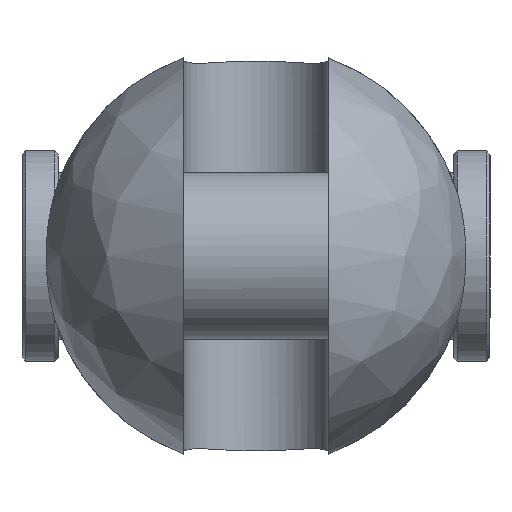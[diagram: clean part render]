
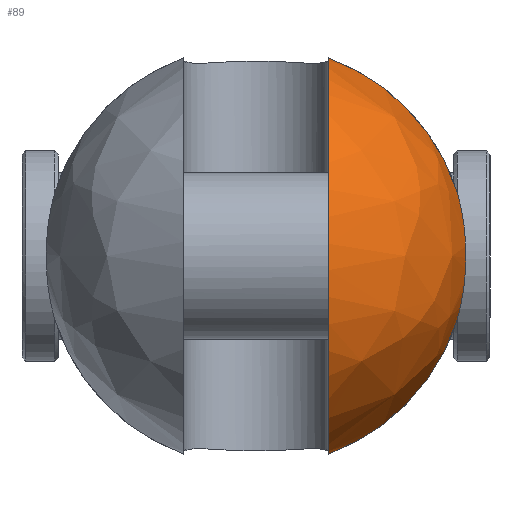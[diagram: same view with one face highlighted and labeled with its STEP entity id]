
A CAD part, left-side view. The second image highlights one B-rep face of the part: STEP entity #89.
In plain terms, the highlighted free-form (B-spline) face has degree [2, 2] with [9, 5] control points.
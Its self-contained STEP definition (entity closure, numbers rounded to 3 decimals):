
#89=ADVANCED_FACE('',(#164),#1306,.T.);
#164=FACE_OUTER_BOUND('',#249,.T.);
#249=EDGE_LOOP('',(#583,#584,#585,#586));
#583=ORIENTED_EDGE('',*,*,#811,.T.);
#584=ORIENTED_EDGE('',*,*,#833,.F.);
#585=ORIENTED_EDGE('',*,*,#843,.T.);
#586=ORIENTED_EDGE('',*,*,#827,.F.);
#811=EDGE_CURVE('',#1192,#1191,#1045,.T.);
#827=EDGE_CURVE('',#1192,#1204,#1055,.T.);
#833=EDGE_CURVE('',#1211,#1191,#1056,.T.);
#843=EDGE_CURVE('',#1211,#1204,#959,.T.);
#959=B_SPLINE_CURVE_WITH_KNOTS('',3,(#3064,#3065,#3066,#3067,#3068,#3069,
#3070,#3071,#3072,#3073,#3074,#3075,#3076,#3077),.UNSPECIFIED.,.F.,.F.,
(4,2,2,2,2,2,4),(0.,2.032,5.991,9.951,
13.91,17.869,19.901),.UNSPECIFIED.);
#1045=(
BOUNDED_CURVE()
B_SPLINE_CURVE(2,(#2912,#2913,#2914,#2915,#2916),.UNSPECIFIED.,.F.,.F.)
B_SPLINE_CURVE_WITH_KNOTS((3,2,3),(-85.518,-42.759,
0.),.UNSPECIFIED.)
CURVE()
GEOMETRIC_REPRESENTATION_ITEM()
RATIONAL_B_SPLINE_CURVE((1.,0.707,1.,0.707,1.))
REPRESENTATION_ITEM('')
);
#1055=(
BOUNDED_CURVE()
B_SPLINE_CURVE(2,(#2990,#2991,#2992),.UNSPECIFIED.,.F.,.F.)
B_SPLINE_CURVE_WITH_KNOTS((3,3),(0.,26.018),.UNSPECIFIED.)
CURVE()
GEOMETRIC_REPRESENTATION_ITEM()
RATIONAL_B_SPLINE_CURVE((1.,0.901,1.))
REPRESENTATION_ITEM('')
);
#1056=(
BOUNDED_CURVE()
B_SPLINE_CURVE(2,(#3019,#3020,#3021),.UNSPECIFIED.,.F.,.F.)
B_SPLINE_CURVE_WITH_KNOTS((3,3),(0.,26.018),.UNSPECIFIED.)
CURVE()
GEOMETRIC_REPRESENTATION_ITEM()
RATIONAL_B_SPLINE_CURVE((1.,0.901,1.))
REPRESENTATION_ITEM('')
);
#1191=VERTEX_POINT('',#2837);
#1192=VERTEX_POINT('',#2838);
#1204=VERTEX_POINT('',#2850);
#1211=VERTEX_POINT('',#2857);
#1306=(
BOUNDED_SURFACE()
B_SPLINE_SURFACE(2,2,((#2445,#2446,#2447,#2448,#2449),(#2450,#2451,#2452,
#2453,#2454),(#2455,#2456,#2457,#2458,#2459),(#2460,#2461,#2462,#2463,#2464),
(#2465,#2466,#2467,#2468,#2469),(#2470,#2471,#2472,#2473,#2474),(#2475,
#2476,#2477,#2478,#2479),(#2480,#2481,#2482,#2483,#2484),(#2485,#2486,#2487,
#2488,#2489)),.UNSPECIFIED.,.T.,.F.,.F.)
B_SPLINE_SURFACE_WITH_KNOTS((3,2,2,2,3),(3,2,3),(0.,45.553,91.106,
136.659,182.212),(0.,45.553,91.106),
 .UNSPECIFIED.)
GEOMETRIC_REPRESENTATION_ITEM()
RATIONAL_B_SPLINE_SURFACE(((1.,0.707,1.,0.707,1.),
(0.707,0.5,0.707,0.5,0.707),(1.,0.707,
1.,0.707,1.),(0.707,0.5,0.707,0.5,0.707),
(1.,0.707,1.,0.707,1.),(0.707,0.5,0.707,
0.5,0.707),(1.,0.707,1.,0.707,1.),(0.707,
0.5,0.707,0.5,0.707),(1.,0.707,1.,0.707,
1.)))
REPRESENTATION_ITEM('')
SURFACE()
);
#2445=CARTESIAN_POINT('',(-41.5,0.,0.));
#2446=CARTESIAN_POINT('',(-41.5,29.,0.));
#2447=CARTESIAN_POINT('',(-12.5,29.,0.));
#2448=CARTESIAN_POINT('',(16.5,29.,0.));
#2449=CARTESIAN_POINT('',(16.5,0.,0.));
#2450=CARTESIAN_POINT('',(-41.5,0.,0.));
#2451=CARTESIAN_POINT('',(-41.5,29.,29.));
#2452=CARTESIAN_POINT('',(-12.5,29.,29.));
#2453=CARTESIAN_POINT('',(16.5,29.,29.));
#2454=CARTESIAN_POINT('',(16.5,0.,0.));
#2455=CARTESIAN_POINT('',(-41.5,0.,0.));
#2456=CARTESIAN_POINT('',(-41.5,0.,29.));
#2457=CARTESIAN_POINT('',(-12.5,0.,29.));
#2458=CARTESIAN_POINT('',(16.5,0.,29.));
#2459=CARTESIAN_POINT('',(16.5,0.,0.));
#2460=CARTESIAN_POINT('',(-41.5,0.,0.));
#2461=CARTESIAN_POINT('',(-41.5,-29.,29.));
#2462=CARTESIAN_POINT('',(-12.5,-29.,29.));
#2463=CARTESIAN_POINT('',(16.5,-29.,29.));
#2464=CARTESIAN_POINT('',(16.5,0.,0.));
#2465=CARTESIAN_POINT('',(-41.5,0.,0.));
#2466=CARTESIAN_POINT('',(-41.5,-29.,0.));
#2467=CARTESIAN_POINT('',(-12.5,-29.,0.));
#2468=CARTESIAN_POINT('',(16.5,-29.,0.));
#2469=CARTESIAN_POINT('',(16.5,0.,0.));
#2470=CARTESIAN_POINT('',(-41.5,0.,0.));
#2471=CARTESIAN_POINT('',(-41.5,-29.,-29.));
#2472=CARTESIAN_POINT('',(-12.5,-29.,-29.));
#2473=CARTESIAN_POINT('',(16.5,-29.,-29.));
#2474=CARTESIAN_POINT('',(16.5,0.,0.));
#2475=CARTESIAN_POINT('',(-41.5,0.,0.));
#2476=CARTESIAN_POINT('',(-41.5,0.,-29.));
#2477=CARTESIAN_POINT('',(-12.5,0.,-29.));
#2478=CARTESIAN_POINT('',(16.5,0.,-29.));
#2479=CARTESIAN_POINT('',(16.5,0.,0.));
#2480=CARTESIAN_POINT('',(-41.5,0.,0.));
#2481=CARTESIAN_POINT('',(-41.5,29.,-29.));
#2482=CARTESIAN_POINT('',(-12.5,29.,-29.));
#2483=CARTESIAN_POINT('',(16.5,29.,-29.));
#2484=CARTESIAN_POINT('',(16.5,0.,0.));
#2485=CARTESIAN_POINT('',(-41.5,0.,0.));
#2486=CARTESIAN_POINT('',(-41.5,29.,0.));
#2487=CARTESIAN_POINT('',(-12.5,29.,0.));
#2488=CARTESIAN_POINT('',(16.5,29.,0.));
#2489=CARTESIAN_POINT('',(16.5,0.,0.));
#2837=CARTESIAN_POINT('',(-12.5,-10.,-27.221));
#2838=CARTESIAN_POINT('',(-12.5,-10.,27.221));
#2850=CARTESIAN_POINT('',(-12.5,-27.514,9.165));
#2857=CARTESIAN_POINT('',(-12.5,-27.514,-9.165));
#2912=CARTESIAN_POINT('',(-12.5,-10.,27.221));
#2913=CARTESIAN_POINT('',(-39.721,-10.,27.221));
#2914=CARTESIAN_POINT('',(-39.721,-10.,0.));
#2915=CARTESIAN_POINT('',(-39.721,-10.,-27.221));
#2916=CARTESIAN_POINT('',(-12.5,-10.,-27.221));
#2990=CARTESIAN_POINT('',(-12.5,-10.,27.221));
#2991=CARTESIAN_POINT('',(-12.5,-23.102,22.408));
#2992=CARTESIAN_POINT('',(-12.5,-27.514,9.165));
#3019=CARTESIAN_POINT('',(-12.5,-27.514,-9.165));
#3020=CARTESIAN_POINT('',(-12.5,-23.102,-22.408));
#3021=CARTESIAN_POINT('',(-12.5,-10.,-27.221));
#3064=CARTESIAN_POINT('',(-12.5,-27.514,-9.165));
#3065=CARTESIAN_POINT('',(-12.889,-27.69,-8.634));
#3066=CARTESIAN_POINT('',(-13.239,-27.848,-8.085));
#3067=CARTESIAN_POINT('',(-14.14,-28.25,-6.466));
#3068=CARTESIAN_POINT('',(-14.658,-28.477,-5.217));
#3069=CARTESIAN_POINT('',(-15.338,-28.774,-2.611));
#3070=CARTESIAN_POINT('',(-15.5,-28.844,-1.253));
#3071=CARTESIAN_POINT('',(-15.5,-28.844,1.253));
#3072=CARTESIAN_POINT('',(-15.338,-28.774,2.611));
#3073=CARTESIAN_POINT('',(-14.658,-28.477,5.217));
#3074=CARTESIAN_POINT('',(-14.14,-28.25,6.466));
#3075=CARTESIAN_POINT('',(-13.239,-27.848,8.085));
#3076=CARTESIAN_POINT('',(-12.889,-27.69,8.634));
#3077=CARTESIAN_POINT('',(-12.5,-27.514,9.165));
